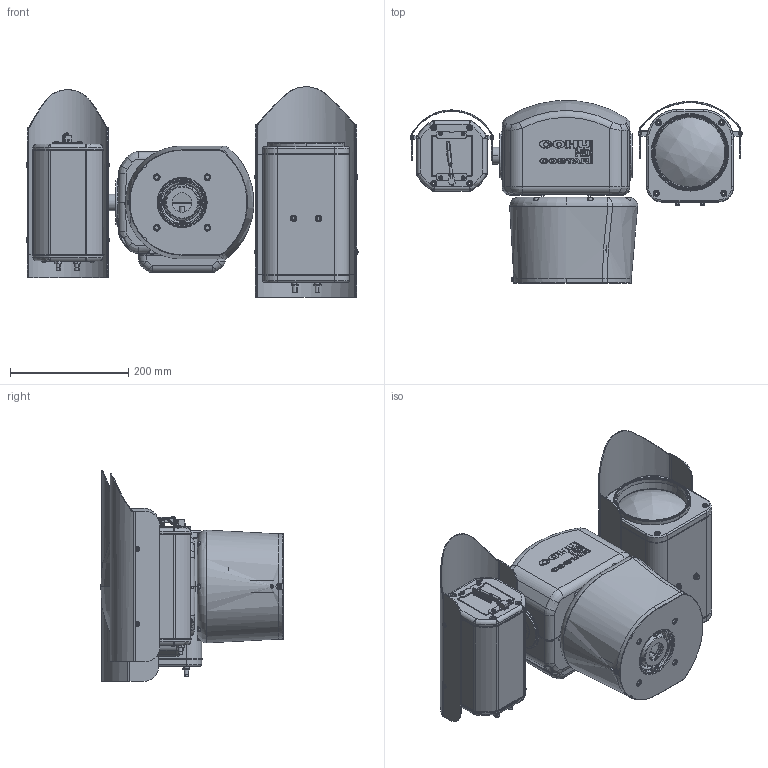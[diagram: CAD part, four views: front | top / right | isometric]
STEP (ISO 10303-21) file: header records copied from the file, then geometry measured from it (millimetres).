
FILE_DESCRIPTION (( 'STEP AP214' ), '1' );
FILE_NAME ('4290 OUTSIDE SHELL.STEP', '2018-11-15T15:23:49', ( 'IT Department' ), ( 'Cohu, Inc.' ), 'SwSTEP 2.0', 'SolidWorks 2018', '' );
FILE_SCHEMA (( 'AUTOMOTIVE_DESIGN' ));
Length unit declared in the file: inch
Products named in the file (2): 4290 OUTSIDE SHELL
Bounding box: 560.77 x 308.3 x 355.57 mm (x, y, z)
Surface area: 958745.4 mm2 (no closed solid volume)
Topology: 0 solids, 235 shells, 1431 faces, 8231 edges, 6964 vertices
Faces by surface type: plane 545, cylinder 371, torus 218, bspline 163, cone 113, sphere 21
Entity records: 141082 total; most frequent: CARTESIAN_POINT 63825, DIRECTION 10799, ORIENTED_EDGE 10483, EDGE_CURVE 8221, VERTEX_POINT 6964, LINE 3847, VECTOR 3847, AXIS2_PLACEMENT_3D 3476
